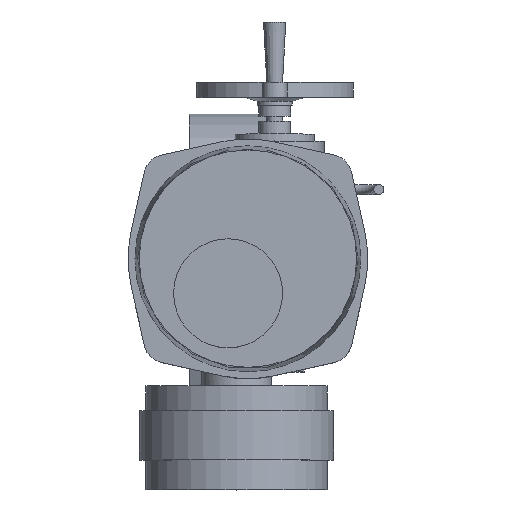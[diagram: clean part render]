
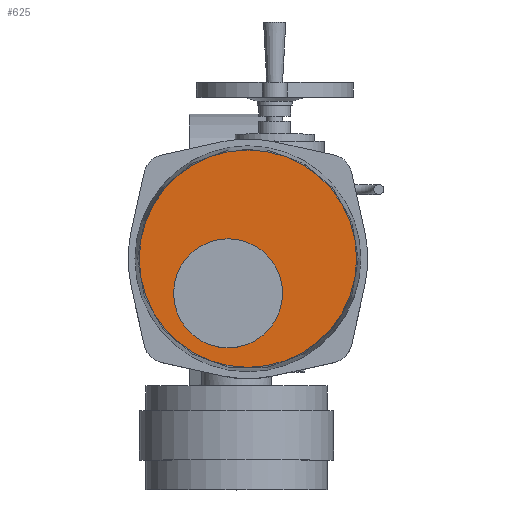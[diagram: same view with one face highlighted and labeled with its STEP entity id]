
A CAD part, top view. The second image highlights one B-rep face of the part: STEP entity #625.
In plain terms, the highlighted planar face has unit normal (0, 0, 1).
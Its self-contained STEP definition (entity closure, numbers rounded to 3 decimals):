
#625=ADVANCED_FACE('',(#8710,#8712),#8714,.T.);
#8710=FACE_BOUND('',#8711,.T.);
#8711=EDGE_LOOP('',(#15009));
#8712=FACE_BOUND('',#8713,.T.);
#8713=EDGE_LOOP('',(#15010));
#8714=PLANE('',#8715);
#8715=AXIS2_PLACEMENT_3D('',#8716,#8717,#8718);
#8716=CARTESIAN_POINT('',(20.,38.,621.));
#8717=DIRECTION('',(0.,0.,1.));
#8718=DIRECTION('',(-1.,0.,0.));
#15009=ORIENTED_EDGE('',*,*,#19978,.T.);
#15010=ORIENTED_EDGE('',*,*,#19981,.F.);
#19978=EDGE_CURVE('',#22658,#22658,#22659,.T.);
#19981=EDGE_CURVE('',#22664,#22664,#22665,.T.);
#22658=VERTEX_POINT('',#28007);
#22659=CIRCLE('',#28008,109.703);
#22664=VERTEX_POINT('',#28022);
#22665=CIRCLE('',#28023,55.);
#28007=CARTESIAN_POINT('',(-89.703,38.,621.));
#28008=AXIS2_PLACEMENT_3D('',#28009,#28010,#28011);
#28009=CARTESIAN_POINT('',(20.,38.,621.));
#28010=DIRECTION('',(0.,0.,1.));
#28011=DIRECTION('',(-1.,0.,0.));
#28022=CARTESIAN_POINT('',(-55.,3.,621.));
#28023=AXIS2_PLACEMENT_3D('',#28024,#28025,#28026);
#28024=CARTESIAN_POINT('',(0.,3.,621.));
#28025=DIRECTION('',(0.,0.,1.));
#28026=DIRECTION('',(-1.,0.,0.));
